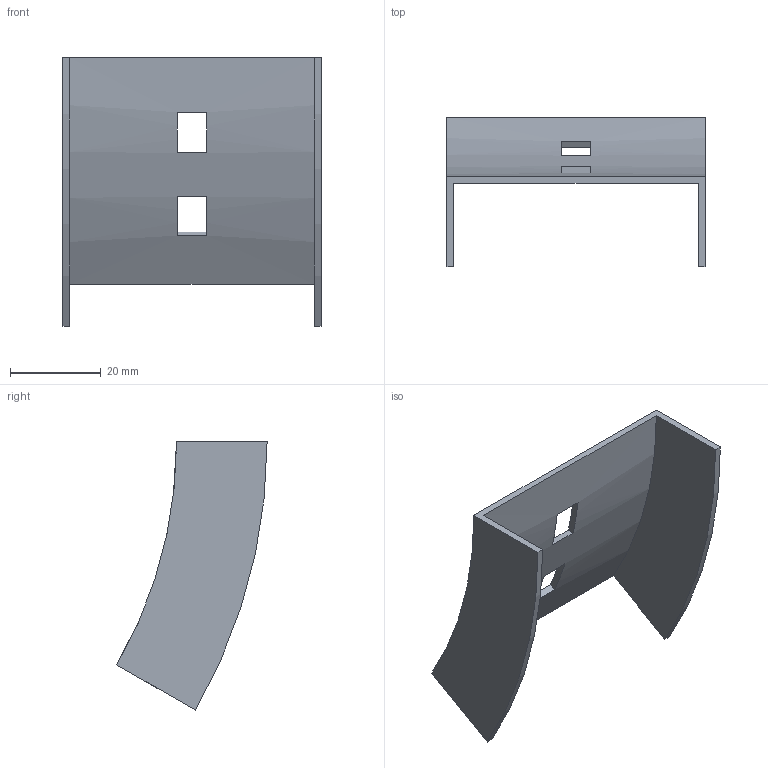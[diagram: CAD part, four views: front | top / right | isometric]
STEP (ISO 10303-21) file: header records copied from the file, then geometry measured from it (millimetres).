
FILE_DESCRIPTION (( 'STEP AP214' ), '1' );
FILE_NAME ('32N1R050.step', '2025-02-21T09:22:04', ( '' ), ( '' ), 'SwSTEP 2.0', 'SolidWorks 2023', '' );
FILE_SCHEMA (( 'AUTOMOTIVE_DESIGN' ));
Length unit declared in the file: millimetre
Products named in the file (1): 32N1R050
Bounding box: 57 x 33.2 x 59.25 mm (x, y, z)
Volume: 7439.9 mm3; surface area: 10481.2 mm2
Topology: 1 solids, 1 shells, 18 faces, 48 edges, 32 vertices
Faces by surface type: plane 14, cylinder 4
Entity records: 599 total; most frequent: DIRECTION 102, CARTESIAN_POINT 99, ORIENTED_EDGE 96, EDGE_CURVE 48, AXIS2_PLACEMENT_3D 35, LINE 32, VERTEX_POINT 32, VECTOR 32
